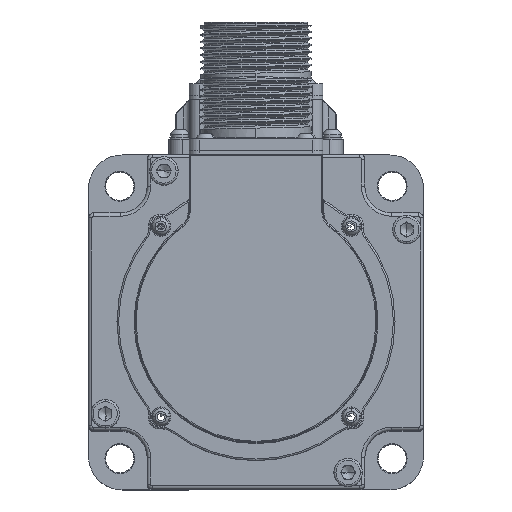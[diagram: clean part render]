
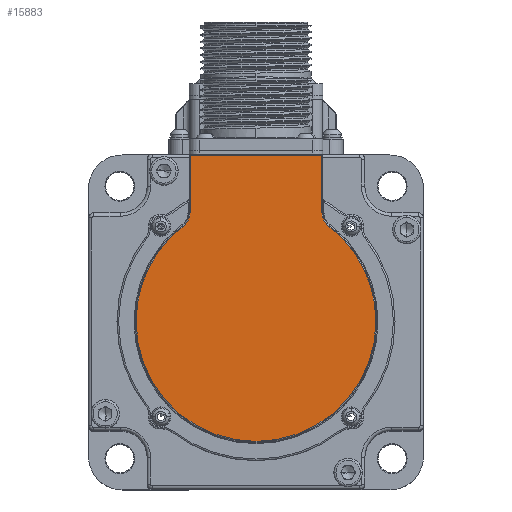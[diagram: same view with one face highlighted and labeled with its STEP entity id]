
A CAD part, top view. The second image highlights one B-rep face of the part: STEP entity #15883.
In plain terms, the highlighted planar face has unit normal (0, 0, 1).
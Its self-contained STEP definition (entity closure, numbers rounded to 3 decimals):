
#396 = CARTESIAN_POINT ( 'NONE',  ( -29.996, 18.674, 297.9 ) ) ;
#2060 = VERTEX_POINT ( 'NONE', #396 ) ;
#2797 = ORIENTED_EDGE ( 'NONE', *, *, #68156, .T. ) ;
#3078 = DIRECTION ( 'NONE',  ( 1., 0., 0. ) ) ;
#4370 = LINE ( 'NONE', #69299, #42057 ) ;
#5168 = VERTEX_POINT ( 'NONE', #43197 ) ;
#5523 = DIRECTION ( 'NONE',  ( 0., 0., 1. ) ) ;
#5602 = ORIENTED_EDGE ( 'NONE', *, *, #47699, .T. ) ;
#9039 = VERTEX_POINT ( 'NONE', #30030 ) ;
#10841 = VERTEX_POINT ( 'NONE', #28580 ) ;
#11091 = DIRECTION ( 'NONE',  ( -1., 0., 0. ) ) ;
#11151 = AXIS2_PLACEMENT_3D ( 'NONE', #55164, #18565, #42551 ) ;
#11967 = EDGE_CURVE ( 'NONE', #10841, #12813, #19698, .T. ) ;
#12813 = VERTEX_POINT ( 'NONE', #29261 ) ;
#15883 = ADVANCED_FACE ( 'NONE', ( #55756 ), #20868, .T. ) ;
#16964 = CIRCLE ( 'NONE', #47175, 5.3 ) ;
#17709 = CARTESIAN_POINT ( 'NONE',  ( -32.072, 22.881, 297.9 ) ) ;
#17723 = DIRECTION ( 'NONE',  ( 0., 0., 1. ) ) ;
#18015 = EDGE_CURVE ( 'NONE', #5168, #2060, #26092, .T. ) ;
#18565 = DIRECTION ( 'NONE',  ( 0., 0., 1. ) ) ;
#18890 = CIRCLE ( 'NONE', #61568, 35.8 ) ;
#19698 = CIRCLE ( 'NONE', #57378, 5.3 ) ;
#20690 = DIRECTION ( 'NONE',  ( 1., 0., 0. ) ) ;
#20868 = PLANE ( 'NONE',  #23898 ) ;
#21743 = DIRECTION ( 'NONE',  ( 0., 0., -1. ) ) ;
#22430 = DIRECTION ( 'NONE',  ( 0., 1., 0. ) ) ;
#23427 = EDGE_CURVE ( 'NONE', #9039, #10841, #35350, .T. ) ;
#23898 = AXIS2_PLACEMENT_3D ( 'NONE', #52323, #5523, #58230 ) ;
#25905 = ORIENTED_EDGE ( 'NONE', *, *, #11967, .T. ) ;
#26092 = CIRCLE ( 'NONE', #11151, 35.8 ) ;
#28358 = CARTESIAN_POINT ( 'NONE',  ( -32.072, 40.259, 297.9 ) ) ;
#28580 = CARTESIAN_POINT ( 'NONE',  ( -71.472, 22.881, 297.9 ) ) ;
#28822 = CARTESIAN_POINT ( 'NONE',  ( -87.572, -9.741, 297.9 ) ) ;
#29261 = CARTESIAN_POINT ( 'NONE',  ( -73.549, 18.674, 297.9 ) ) ;
#30030 = CARTESIAN_POINT ( 'NONE',  ( -71.472, 39.959, 297.9 ) ) ;
#34293 = CIRCLE ( 'NONE', #39266, 35.8 ) ;
#34390 = EDGE_CURVE ( 'NONE', #74757, #9039, #4370, .T. ) ;
#35077 = DIRECTION ( 'NONE',  ( 1., 0., 0. ) ) ;
#35350 = LINE ( 'NONE', #58615, #70126 ) ;
#39266 = AXIS2_PLACEMENT_3D ( 'NONE', #59860, #17723, #60635 ) ;
#42057 = VECTOR ( 'NONE', #11091, 1000. ) ;
#42551 = DIRECTION ( 'NONE',  ( 1., 0., 0. ) ) ;
#43197 = CARTESIAN_POINT ( 'NONE',  ( -15.972, -9.741, 297.9 ) ) ;
#45214 = DIRECTION ( 'NONE',  ( 0., 0., 1. ) ) ;
#45433 = VERTEX_POINT ( 'NONE', #28822 ) ;
#47175 = AXIS2_PLACEMENT_3D ( 'NONE', #59515, #21743, #35077 ) ;
#47423 = EDGE_CURVE ( 'NONE', #2060, #75444, #16964, .T. ) ;
#47699 = EDGE_CURVE ( 'NONE', #75444, #74757, #58218, .T. ) ;
#52069 = VECTOR ( 'NONE', #22430, 1000. ) ;
#52323 = CARTESIAN_POINT ( 'NONE',  ( -51.772, -9.741, 297.9 ) ) ;
#52488 = CARTESIAN_POINT ( 'NONE',  ( -32.072, 39.959, 297.9 ) ) ;
#55164 = CARTESIAN_POINT ( 'NONE',  ( -51.772, -9.741, 297.9 ) ) ;
#55756 = FACE_OUTER_BOUND ( 'NONE', #73418, .T. ) ;
#56154 = DIRECTION ( 'NONE',  ( 0., 0., -1. ) ) ;
#57378 = AXIS2_PLACEMENT_3D ( 'NONE', #62031, #56154, #20690 ) ;
#58218 = LINE ( 'NONE', #28358, #52069 ) ;
#58230 = DIRECTION ( 'NONE',  ( 1., 0., 0. ) ) ;
#58615 = CARTESIAN_POINT ( 'NONE',  ( -71.472, 22.881, 297.9 ) ) ;
#58784 = ORIENTED_EDGE ( 'NONE', *, *, #18015, .T. ) ;
#59515 = CARTESIAN_POINT ( 'NONE',  ( -26.772, 22.881, 297.9 ) ) ;
#59860 = CARTESIAN_POINT ( 'NONE',  ( -51.772, -9.741, 297.9 ) ) ;
#60141 = EDGE_CURVE ( 'NONE', #12813, #45433, #18890, .T. ) ;
#60635 = DIRECTION ( 'NONE',  ( 1., 0., 0. ) ) ;
#61489 = ORIENTED_EDGE ( 'NONE', *, *, #34390, .T. ) ;
#61568 = AXIS2_PLACEMENT_3D ( 'NONE', #69912, #45214, #3078 ) ;
#62031 = CARTESIAN_POINT ( 'NONE',  ( -76.772, 22.881, 297.9 ) ) ;
#64860 = DIRECTION ( 'NONE',  ( 0., -1., 0. ) ) ;
#66999 = ORIENTED_EDGE ( 'NONE', *, *, #23427, .T. ) ;
#68156 = EDGE_CURVE ( 'NONE', #45433, #5168, #34293, .T. ) ;
#69299 = CARTESIAN_POINT ( 'NONE',  ( -71.772, 39.959, 297.9 ) ) ;
#69673 = ORIENTED_EDGE ( 'NONE', *, *, #60141, .T. ) ;
#69912 = CARTESIAN_POINT ( 'NONE',  ( -51.772, -9.741, 297.9 ) ) ;
#70126 = VECTOR ( 'NONE', #64860, 1000. ) ;
#71884 = ORIENTED_EDGE ( 'NONE', *, *, #47423, .T. ) ;
#73418 = EDGE_LOOP ( 'NONE', ( #61489, #66999, #25905, #69673, #2797, #58784, #71884, #5602 ) ) ;
#74757 = VERTEX_POINT ( 'NONE', #52488 ) ;
#75444 = VERTEX_POINT ( 'NONE', #17709 ) ;
